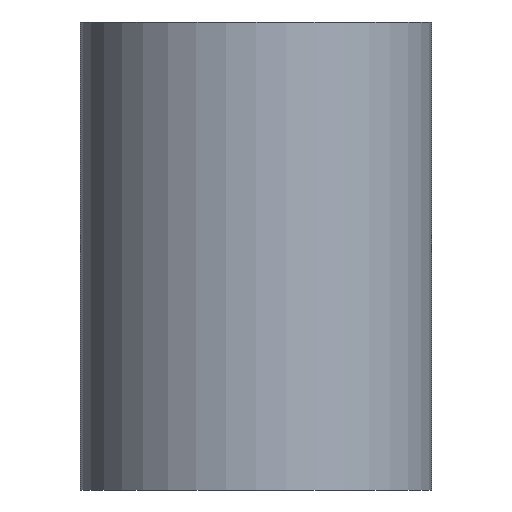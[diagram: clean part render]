
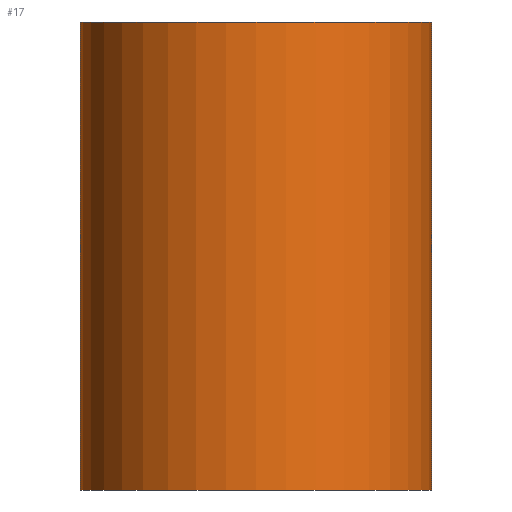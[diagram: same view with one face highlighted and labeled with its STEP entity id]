
A CAD part, front view. The second image highlights one B-rep face of the part: STEP entity #17.
In plain terms, the highlighted cylindrical face has radius 3.75 mm (diameter 7.5 mm), a full revolution.
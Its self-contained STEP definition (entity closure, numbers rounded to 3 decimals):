
#17 = ADVANCED_FACE('',(#18),#32,.T.);
#18 = FACE_BOUND('',#19,.F.);
#19 = EDGE_LOOP('',(#20,#50,#77,#78));
#20 = ORIENTED_EDGE('',*,*,#21,.T.);
#21 = EDGE_CURVE('',#22,#24,#26,.T.);
#22 = VERTEX_POINT('',#23);
#23 = CARTESIAN_POINT('',(3.75,0.,0.));
#24 = VERTEX_POINT('',#25);
#25 = CARTESIAN_POINT('',(3.75,0.,10.));
#26 = SEAM_CURVE('',#27,(#31,#43),.PCURVE_S1.);
#27 = LINE('',#28,#29);
#28 = CARTESIAN_POINT('',(3.75,0.,0.));
#29 = VECTOR('',#30,1.);
#30 = DIRECTION('',(0.,0.,1.));
#31 = PCURVE('',#32,#37);
#32 = CYLINDRICAL_SURFACE('',#33,3.75);
#33 = AXIS2_PLACEMENT_3D('',#34,#35,#36);
#34 = CARTESIAN_POINT('',(0.,0.,0.));
#35 = DIRECTION('',(-0.,-0.,-1.));
#36 = DIRECTION('',(1.,0.,0.));
#37 = DEFINITIONAL_REPRESENTATION('',(#38),#42);
#38 = LINE('',#39,#40);
#39 = CARTESIAN_POINT('',(-0.,0.));
#40 = VECTOR('',#41,1.);
#41 = DIRECTION('',(-0.,-1.));
#42 = ( GEOMETRIC_REPRESENTATION_CONTEXT(2) 
PARAMETRIC_REPRESENTATION_CONTEXT() REPRESENTATION_CONTEXT('2D SPACE',''
  ) );
#43 = PCURVE('',#32,#44);
#44 = DEFINITIONAL_REPRESENTATION('',(#45),#49);
#45 = LINE('',#46,#47);
#46 = CARTESIAN_POINT('',(-6.283,0.));
#47 = VECTOR('',#48,1.);
#48 = DIRECTION('',(-0.,-1.));
#49 = ( GEOMETRIC_REPRESENTATION_CONTEXT(2) 
PARAMETRIC_REPRESENTATION_CONTEXT() REPRESENTATION_CONTEXT('2D SPACE',''
  ) );
#50 = ORIENTED_EDGE('',*,*,#51,.T.);
#51 = EDGE_CURVE('',#24,#24,#52,.T.);
#52 = SURFACE_CURVE('',#53,(#58,#65),.PCURVE_S1.);
#53 = CIRCLE('',#54,3.75);
#54 = AXIS2_PLACEMENT_3D('',#55,#56,#57);
#55 = CARTESIAN_POINT('',(0.,0.,10.));
#56 = DIRECTION('',(0.,0.,1.));
#57 = DIRECTION('',(1.,0.,0.));
#58 = PCURVE('',#32,#59);
#59 = DEFINITIONAL_REPRESENTATION('',(#60),#64);
#60 = LINE('',#61,#62);
#61 = CARTESIAN_POINT('',(-0.,-10.));
#62 = VECTOR('',#63,1.);
#63 = DIRECTION('',(-1.,0.));
#64 = ( GEOMETRIC_REPRESENTATION_CONTEXT(2) 
PARAMETRIC_REPRESENTATION_CONTEXT() REPRESENTATION_CONTEXT('2D SPACE',''
  ) );
#65 = PCURVE('',#66,#71);
#66 = PLANE('',#67);
#67 = AXIS2_PLACEMENT_3D('',#68,#69,#70);
#68 = CARTESIAN_POINT('',(0.,0.,10.));
#69 = DIRECTION('',(0.,0.,1.));
#70 = DIRECTION('',(1.,0.,-0.));
#71 = DEFINITIONAL_REPRESENTATION('',(#72),#76);
#72 = CIRCLE('',#73,3.75);
#73 = AXIS2_PLACEMENT_2D('',#74,#75);
#74 = CARTESIAN_POINT('',(0.,0.));
#75 = DIRECTION('',(1.,0.));
#76 = ( GEOMETRIC_REPRESENTATION_CONTEXT(2) 
PARAMETRIC_REPRESENTATION_CONTEXT() REPRESENTATION_CONTEXT('2D SPACE',''
  ) );
#77 = ORIENTED_EDGE('',*,*,#21,.F.);
#78 = ORIENTED_EDGE('',*,*,#79,.F.);
#79 = EDGE_CURVE('',#22,#22,#80,.T.);
#80 = SURFACE_CURVE('',#81,(#86,#93),.PCURVE_S1.);
#81 = CIRCLE('',#82,3.75);
#82 = AXIS2_PLACEMENT_3D('',#83,#84,#85);
#83 = CARTESIAN_POINT('',(0.,0.,0.));
#84 = DIRECTION('',(0.,0.,1.));
#85 = DIRECTION('',(1.,0.,0.));
#86 = PCURVE('',#32,#87);
#87 = DEFINITIONAL_REPRESENTATION('',(#88),#92);
#88 = LINE('',#89,#90);
#89 = CARTESIAN_POINT('',(-0.,0.));
#90 = VECTOR('',#91,1.);
#91 = DIRECTION('',(-1.,0.));
#92 = ( GEOMETRIC_REPRESENTATION_CONTEXT(2) 
PARAMETRIC_REPRESENTATION_CONTEXT() REPRESENTATION_CONTEXT('2D SPACE',''
  ) );
#93 = PCURVE('',#94,#99);
#94 = PLANE('',#95);
#95 = AXIS2_PLACEMENT_3D('',#96,#97,#98);
#96 = CARTESIAN_POINT('',(0.,0.,0.));
#97 = DIRECTION('',(0.,0.,1.));
#98 = DIRECTION('',(1.,0.,-0.));
#99 = DEFINITIONAL_REPRESENTATION('',(#100),#104);
#100 = CIRCLE('',#101,3.75);
#101 = AXIS2_PLACEMENT_2D('',#102,#103);
#102 = CARTESIAN_POINT('',(0.,0.));
#103 = DIRECTION('',(1.,0.));
#104 = ( GEOMETRIC_REPRESENTATION_CONTEXT(2) 
PARAMETRIC_REPRESENTATION_CONTEXT() REPRESENTATION_CONTEXT('2D SPACE',''
  ) );
